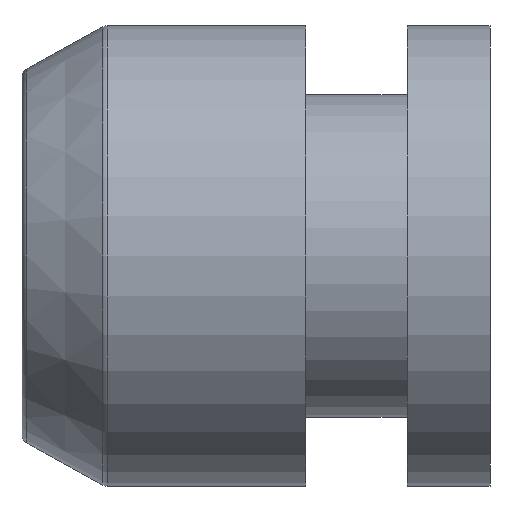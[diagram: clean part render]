
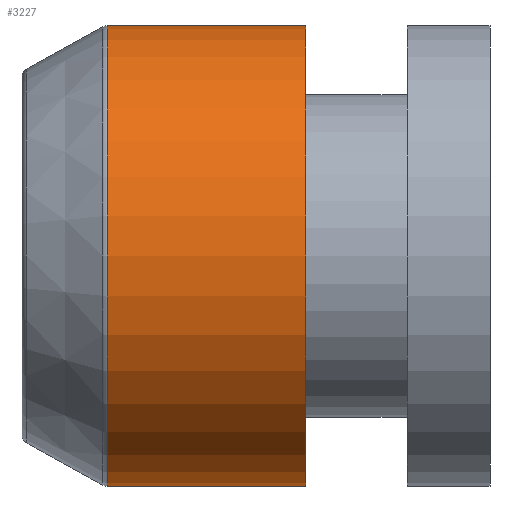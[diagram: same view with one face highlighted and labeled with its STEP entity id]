
A CAD part, left-side view. The second image highlights one B-rep face of the part: STEP entity #3227.
In plain terms, the highlighted cylindrical face has radius 12.5 mm (diameter 25 mm), a partial arc.
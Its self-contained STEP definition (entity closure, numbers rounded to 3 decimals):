
#946 = CIRCLE ( 'NONE', #4493, 12.5 ) ;
#980 = CYLINDRICAL_SURFACE ( 'NONE', #4522, 12.5 ) ;
#1022 = FACE_OUTER_BOUND ( 'NONE', #4943, .T. ) ;
#1597 = EDGE_CURVE ( 'NONE', #3178, #3165, #3716, .T. ) ;
#1608 = EDGE_CURVE ( 'NONE', #3175, #3184, #3745, .T. ) ;
#1623 = EDGE_CURVE ( 'NONE', #3184, #3165, #3678, .T. ) ;
#1659 = EDGE_CURVE ( 'NONE', #3178, #3175, #946, .T. ) ;
#1752 = CARTESIAN_POINT ( 'NONE',  ( -3.205, -6.314, 0. ) ) ;
#1758 = DIRECTION ( 'NONE',  ( 0., 0., 1. ) ) ;
#1782 = DIRECTION ( 'NONE',  ( 0., 1., 0. ) ) ;
#1827 = CARTESIAN_POINT ( 'NONE',  ( -3.205, 4.457, 0. ) ) ;
#1840 = DIRECTION ( 'NONE',  ( 0., -1., 0. ) ) ;
#1852 = DIRECTION ( 'NONE',  ( 0., 0., 1. ) ) ;
#2058 = CARTESIAN_POINT ( 'NONE',  ( -3.205, 4.457, -12.5 ) ) ;
#2061 = CARTESIAN_POINT ( 'NONE',  ( -3.205, -6.314, -12.5 ) ) ;
#2067 = CARTESIAN_POINT ( 'NONE',  ( -3.205, -6.314, 12.5 ) ) ;
#2087 = CARTESIAN_POINT ( 'NONE',  ( -3.205, 4.457, 12.5 ) ) ;
#2712 = DIRECTION ( 'NONE',  ( 0., 0., -1. ) ) ;
#2732 = CARTESIAN_POINT ( 'NONE',  ( -3.205, 9.086, 0. ) ) ;
#2736 = DIRECTION ( 'NONE',  ( 0., -1., 0. ) ) ;
#3165 = VERTEX_POINT ( 'NONE', #2067 ) ;
#3175 = VERTEX_POINT ( 'NONE', #2058 ) ;
#3178 = VERTEX_POINT ( 'NONE', #2087 ) ;
#3184 = VERTEX_POINT ( 'NONE', #2061 ) ;
#3227 = ADVANCED_FACE ( 'NONE', ( #1022 ), #980, .T. ) ;
#3678 = CIRCLE ( 'NONE', #4452, 12.5 ) ;
#3716 = LINE ( 'NONE', #5713, #3735 ) ;
#3735 = VECTOR ( 'NONE', #5684, 1000. ) ;
#3745 = LINE ( 'NONE', #5736, #3746 ) ;
#3746 = VECTOR ( 'NONE', #5747, 1000. ) ;
#4452 = AXIS2_PLACEMENT_3D ( 'NONE', #1752, #1782, #1758 ) ;
#4493 = AXIS2_PLACEMENT_3D ( 'NONE', #1827, #1840, #1852 ) ;
#4522 = AXIS2_PLACEMENT_3D ( 'NONE', #2732, #2736, #2712 ) ;
#4750 = ORIENTED_EDGE ( 'NONE', *, *, #1659, .T. ) ;
#4764 = ORIENTED_EDGE ( 'NONE', *, *, #1623, .T. ) ;
#4771 = ORIENTED_EDGE ( 'NONE', *, *, #1597, .F. ) ;
#4807 = ORIENTED_EDGE ( 'NONE', *, *, #1608, .T. ) ;
#4943 = EDGE_LOOP ( 'NONE', ( #4771, #4750, #4807, #4764 ) ) ;
#5684 = DIRECTION ( 'NONE',  ( 0., -1., 0. ) ) ;
#5713 = CARTESIAN_POINT ( 'NONE',  ( -3.205, 9.086, 12.5 ) ) ;
#5736 = CARTESIAN_POINT ( 'NONE',  ( -3.205, 9.086, -12.5 ) ) ;
#5747 = DIRECTION ( 'NONE',  ( 0., -1., 0. ) ) ;
